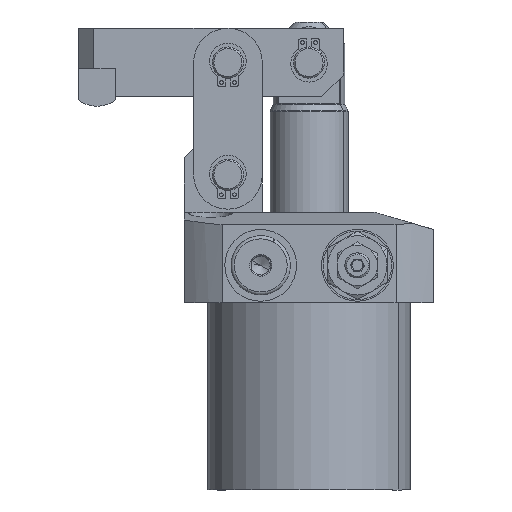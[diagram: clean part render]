
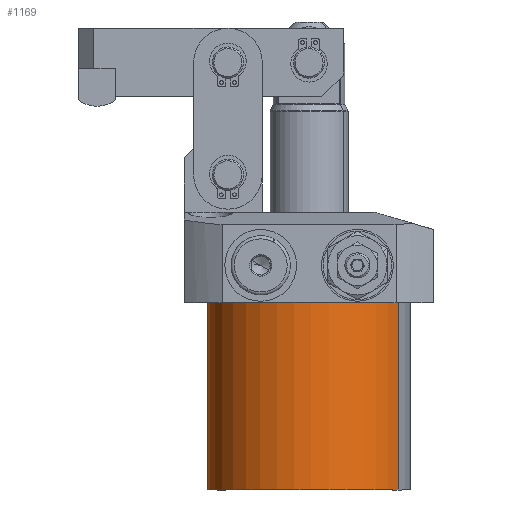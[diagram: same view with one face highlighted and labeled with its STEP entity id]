
A CAD part, left-side view. The second image highlights one B-rep face of the part: STEP entity #1169.
In plain terms, the highlighted cylindrical face has radius 32.5 mm (diameter 65 mm), a partial arc.
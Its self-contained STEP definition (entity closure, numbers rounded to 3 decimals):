
#1108=CARTESIAN_POINT('Vertex',(15.581,28.521,0.)) ;
#1110=CARTESIAN_POINT('Vertex',(-15.581,-28.521,0.)) ;
#1113=CARTESIAN_POINT('Axis2P3D Location',(0.,0.,0.)) ;
#1127=CARTESIAN_POINT('Axis2P3D Location',(0.,0.,44.5)) ;
#1132=CARTESIAN_POINT('Line Origine',(15.581,28.521,30.)) ;
#1136=CARTESIAN_POINT('Vertex',(15.581,28.521,60.)) ;
#1143=CARTESIAN_POINT('Vertex',(-15.581,-28.521,60.)) ;
#1146=CARTESIAN_POINT('Line Origine',(-15.581,-28.521,30.)) ;
#1158=CARTESIAN_POINT('Axis2P3D Location',(0.,0.,60.)) ;
#1114=DIRECTION('Axis2P3D Direction',(0.,0.,-1.)) ;
#1128=DIRECTION('Axis2P3D Direction',(0.,0.,-1.)) ;
#1129=DIRECTION('Axis2P3D XDirection',(-0.479,-0.878,0.)) ;
#1133=DIRECTION('Vector Direction',(0.,0.,-1.)) ;
#1147=DIRECTION('Vector Direction',(0.,0.,-1.)) ;
#1159=DIRECTION('Axis2P3D Direction',(0.,0.,-1.)) ;
#1115=AXIS2_PLACEMENT_3D('Circle Axis2P3D',#1113,#1114,$) ;
#1130=AXIS2_PLACEMENT_3D('Cylinder Axis2P3D',#1127,#1128,#1129) ;
#1160=AXIS2_PLACEMENT_3D('Circle Axis2P3D',#1158,#1159,$) ;
#1164=ORIENTED_EDGE('',*,*,#1117,.F.) ;
#1165=ORIENTED_EDGE('',*,*,#1150,.T.) ;
#1166=ORIENTED_EDGE('',*,*,#1162,.T.) ;
#1167=ORIENTED_EDGE('',*,*,#1138,.F.) ;
#1134=VECTOR('Line Direction',#1133,1.) ;
#1148=VECTOR('Line Direction',#1147,1.) ;
#1169=ADVANCED_FACE('PartBody',(#1168),#1131,.T.) ;
#1116=CIRCLE('generated circle',#1115,32.5) ;
#1161=CIRCLE('generated circle',#1160,32.5) ;
#1131=CYLINDRICAL_SURFACE('generated cylinder',#1130,32.5) ;
#1117=EDGE_CURVE('',#1111,#1109,#1116,.T.) ;
#1138=EDGE_CURVE('',#1109,#1137,#1135,.F.) ;
#1150=EDGE_CURVE('',#1111,#1144,#1149,.F.) ;
#1162=EDGE_CURVE('',#1144,#1137,#1161,.T.) ;
#1163=EDGE_LOOP('',(#1164,#1165,#1166,#1167)) ;
#1168=FACE_OUTER_BOUND('',#1163,.T.) ;
#1135=LINE('Line',#1132,#1134) ;
#1149=LINE('Line',#1146,#1148) ;
#1109=VERTEX_POINT('',#1108) ;
#1111=VERTEX_POINT('',#1110) ;
#1137=VERTEX_POINT('',#1136) ;
#1144=VERTEX_POINT('',#1143) ;
